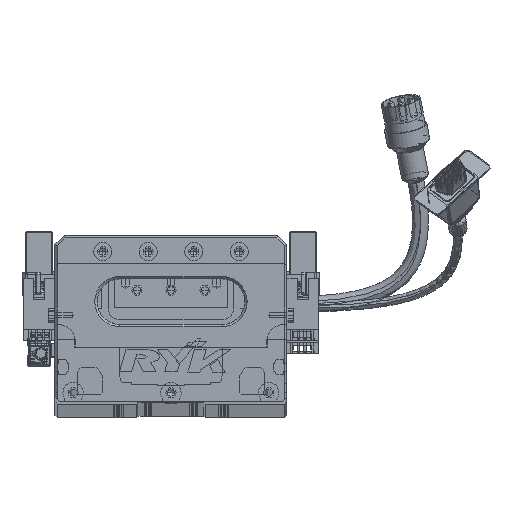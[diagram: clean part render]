
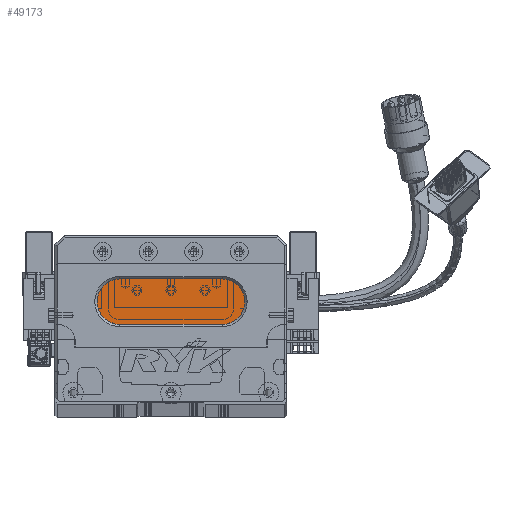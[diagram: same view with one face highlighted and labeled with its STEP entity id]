
A CAD part, top view. The second image highlights one B-rep face of the part: STEP entity #49173.
In plain terms, the highlighted planar face has unit normal (0, 0, 1) as drawn and (0, 0, -1) by its records, which use the part's own axes.
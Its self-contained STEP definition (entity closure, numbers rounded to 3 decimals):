
#2619 = FACE_OUTER_BOUND ( 'NONE', #56321, .T. ) ;
#4325 = ORIENTED_EDGE ( 'NONE', *, *, #66333, .T. ) ;
#4512 = LINE ( 'NONE', #62158, #82702 ) ;
#8974 = CARTESIAN_POINT ( 'NONE',  ( 28.5, 44., 13. ) ) ;
#9162 = VERTEX_POINT ( 'NONE', #83518 ) ;
#11303 = CIRCLE ( 'NONE', #31760, 10. ) ;
#13559 = CIRCLE ( 'NONE', #93448, 10. ) ;
#22929 = VERTEX_POINT ( 'NONE', #56266 ) ;
#24715 = ORIENTED_EDGE ( 'NONE', *, *, #31317, .T. ) ;
#30574 = EDGE_CURVE ( 'NONE', #9162, #76087, #52890, .T. ) ;
#31317 = EDGE_CURVE ( 'NONE', #83567, #76689, #94261, .T. ) ;
#31760 = AXIS2_PLACEMENT_3D ( 'NONE', #72022, #49232, #93608 ) ;
#32812 = ORIENTED_EDGE ( 'NONE', *, *, #80382, .T. ) ;
#33681 = AXIS2_PLACEMENT_3D ( 'NONE', #42586, #57087, #72471 ) ;
#33996 = DIRECTION ( 'NONE',  ( -1., 0., 0. ) ) ;
#38531 = DIRECTION ( 'NONE',  ( -1., 0., 0. ) ) ;
#39681 = DIRECTION ( 'NONE',  ( 1., 0., 0. ) ) ;
#39868 = EDGE_CURVE ( 'NONE', #22929, #9162, #11303, .T. ) ;
#40350 = PLANE ( 'NONE',  #33681 ) ;
#42586 = CARTESIAN_POINT ( 'NONE',  ( 73.5, 44., 13. ) ) ;
#49173 = ADVANCED_FACE ( 'NONE', ( #2619 ), #40350, .T. ) ;
#49232 = DIRECTION ( 'NONE',  ( 0., 0., -1. ) ) ;
#52700 = CARTESIAN_POINT ( 'NONE',  ( 28.5, 54., 13. ) ) ;
#52890 = LINE ( 'NONE', #65382, #94350 ) ;
#53335 = ORIENTED_EDGE ( 'NONE', *, *, #30574, .T. ) ;
#56266 = CARTESIAN_POINT ( 'NONE',  ( 73.5, 54., 13. ) ) ;
#56321 = EDGE_LOOP ( 'NONE', ( #91832, #53335, #4325, #24715, #32812 ) ) ;
#57087 = DIRECTION ( 'NONE',  ( 0., 0., -1. ) ) ;
#57388 = DIRECTION ( 'NONE',  ( -1., 0., 0. ) ) ;
#60408 = DIRECTION ( 'NONE',  ( 0., 0., -1. ) ) ;
#62158 = CARTESIAN_POINT ( 'NONE',  ( 73.5, 54., 13. ) ) ;
#64170 = DIRECTION ( 'NONE',  ( 0., 0., -1. ) ) ;
#65382 = CARTESIAN_POINT ( 'NONE',  ( 73.5, 34., 13. ) ) ;
#66333 = EDGE_CURVE ( 'NONE', #76087, #83567, #13559, .T. ) ;
#71250 = CARTESIAN_POINT ( 'NONE',  ( 28.5, 44., 13. ) ) ;
#72022 = CARTESIAN_POINT ( 'NONE',  ( 73.5, 44., 13. ) ) ;
#72471 = DIRECTION ( 'NONE',  ( -1., 0., 0. ) ) ;
#76087 = VERTEX_POINT ( 'NONE', #78259 ) ;
#76689 = VERTEX_POINT ( 'NONE', #52700 ) ;
#78259 = CARTESIAN_POINT ( 'NONE',  ( 28.5, 34., 13. ) ) ;
#80382 = EDGE_CURVE ( 'NONE', #76689, #22929, #4512, .T. ) ;
#80513 = AXIS2_PLACEMENT_3D ( 'NONE', #8974, #60408, #38531 ) ;
#82702 = VECTOR ( 'NONE', #39681, 1000. ) ;
#83518 = CARTESIAN_POINT ( 'NONE',  ( 73.5, 34., 13. ) ) ;
#83567 = VERTEX_POINT ( 'NONE', #88001 ) ;
#88001 = CARTESIAN_POINT ( 'NONE',  ( 18.5, 44., 13. ) ) ;
#91832 = ORIENTED_EDGE ( 'NONE', *, *, #39868, .T. ) ;
#93448 = AXIS2_PLACEMENT_3D ( 'NONE', #71250, #64170, #33996 ) ;
#93608 = DIRECTION ( 'NONE',  ( -1., 0., 0. ) ) ;
#94261 = CIRCLE ( 'NONE', #80513, 10. ) ;
#94350 = VECTOR ( 'NONE', #57388, 1000. ) ;
